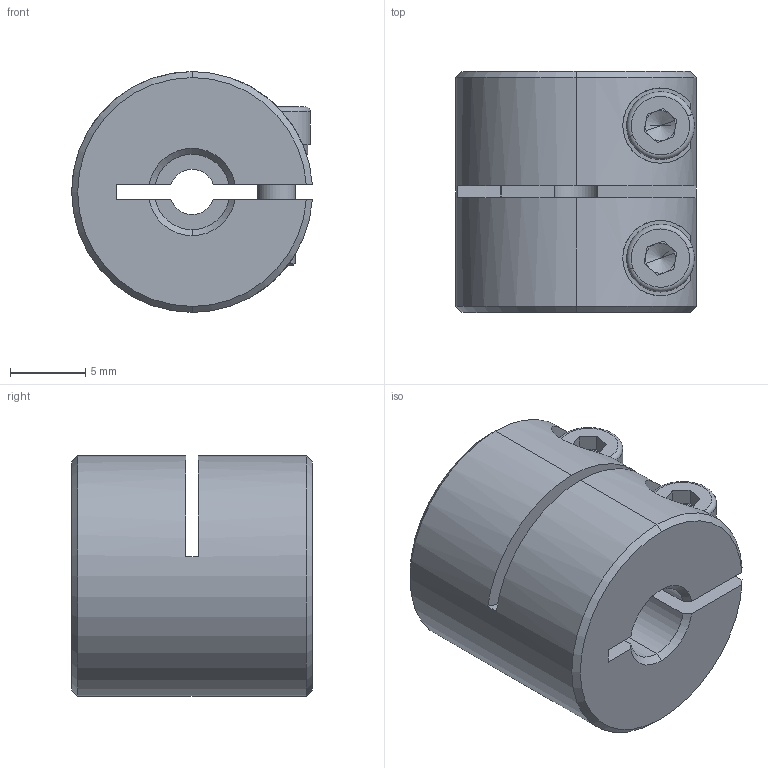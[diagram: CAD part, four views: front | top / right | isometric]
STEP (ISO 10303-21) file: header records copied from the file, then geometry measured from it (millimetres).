
FILE_DESCRIPTION (( 'STEP AP203' ), '1' );
FILE_NAME ('LL-B-D16L16-3-5.STEP', '2021-11-03T02:29:38', ( '' ), ( '' ), 'SwSTEP 2.0', 'SolidWorks 2018', '' );
FILE_SCHEMA (( 'CONFIG_CONTROL_DESIGN' ));
Length unit declared in the file: millimetre
Products named in the file (1): LL-B-D16L16-3-5
Bounding box: 15.98 x 16 x 16 mm (x, y, z)
Volume: 2757.5 mm3; surface area: 2025.6 mm2
Topology: 1 solids, 1 shells, 121 faces, 313 edges, 196 vertices
Faces by surface type: plane 52, cylinder 45, cone 20, torus 4
Entity records: 3956 total; most frequent: CARTESIAN_POINT 887, DIRECTION 653, ORIENTED_EDGE 618, EDGE_CURVE 309, AXIS2_PLACEMENT_3D 254, VERTEX_POINT 196, VECTOR 145, LINE 145
